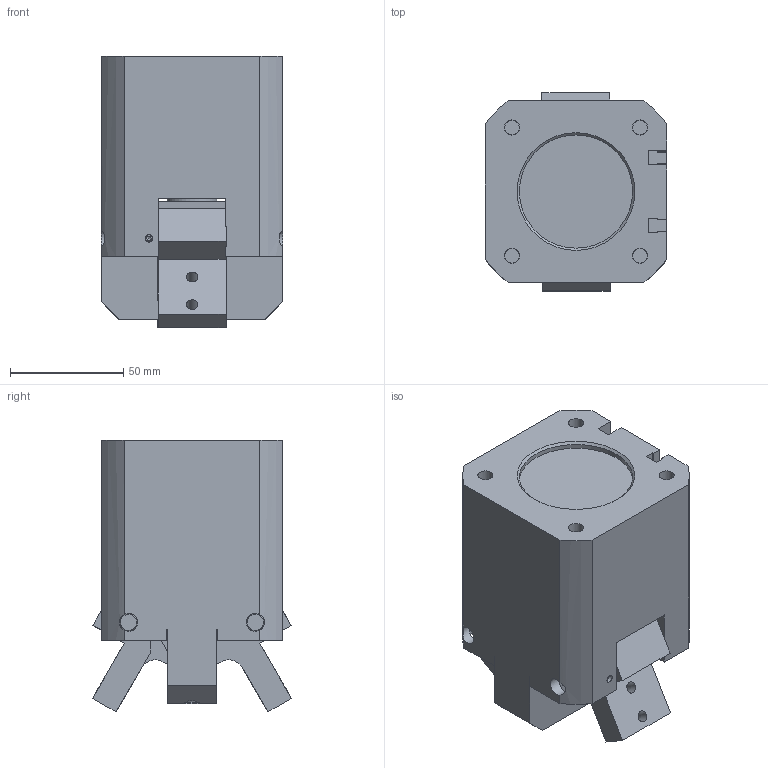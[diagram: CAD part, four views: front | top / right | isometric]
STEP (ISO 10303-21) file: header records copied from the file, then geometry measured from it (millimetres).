
FILE_DESCRIPTION((''),'2;1');
FILE_NAME('T:\CAD\Standard\Daten\3D-Datenbank\GZ\4 - 3D-CAD-Daten GZ 050-125\GZ100\step-Daten\G-GZ100-IO.stp','2013-11-11T10:25:01',('Dirk'),(''),'Autodesk Inventor 2011','Autodesk Inventor 2011','');
FILE_SCHEMA(('AUTOMOTIVE_DESIGN { 1 0 10303 214 1 1 1 1 }'));
Length unit declared in the file: millimetre
Products named in the file (1): Bauteil8
Bounding box: 80 x 87.8 x 120.04 mm (x, y, z)
Volume: 488184 mm3; surface area: 119795.7 mm2
Topology: 1 solids, 25 shells, 414 faces, 1036 edges, 674 vertices
Faces by surface type: plane 226, cylinder 118, cone 48, torus 21, bspline 1
Full cylindrical faces by diameter (mm): 2.459 x2, 3.3 x4, 4.917 x6, 6 x2, 6.4 x2, 6.647 x5, 8 x14, 8.376 x1, 8.566 x2, 9 x4, 10 x3, 11 x4, 12 x2, 13 x4, 15 x4, 17.8 x2, 18 x2, 20 x1, 22 x4, 24 x1, 28.4 x2, 33 x1, 45 x1, 48 x1, 50 x1, 52 x2, 54.2 x1, 61.1 x1, 62 x1, 64 x4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
Entity records: 12409 total; most frequent: CARTESIAN_POINT 3237, DIRECTION 1786, ORIENTED_EDGE 1564, EDGE_CURVE 782, AXIS2_PLACEMENT_3D 692, EDGE_LOOP 649, VERTEX_POINT 575, FACE_OUTER_BOUND 414
